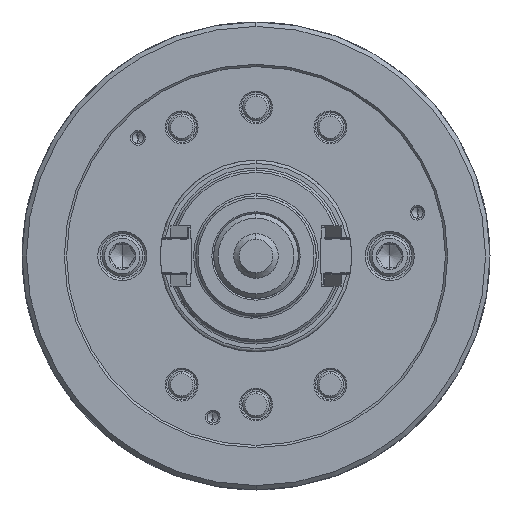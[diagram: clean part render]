
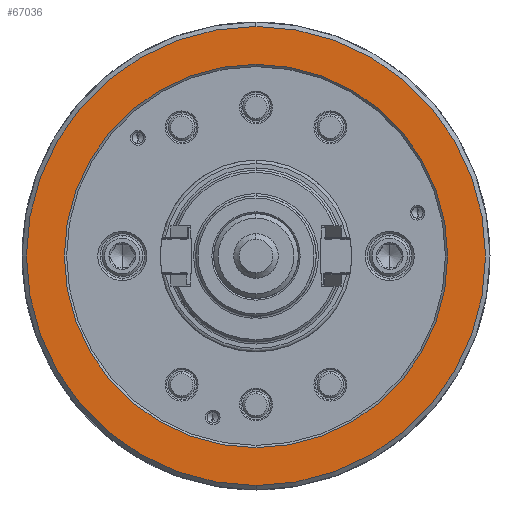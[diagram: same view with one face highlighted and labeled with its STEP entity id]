
A CAD part, left-side view. The second image highlights one B-rep face of the part: STEP entity #67036.
In plain terms, the highlighted planar face has unit normal (-1, 0, 0).
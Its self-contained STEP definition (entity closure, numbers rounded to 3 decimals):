
#3348 = AXIS2_PLACEMENT_3D ( 'NONE', #25095, #76961, #54967 ) ;
#4891 = AXIS2_PLACEMENT_3D ( 'NONE', #70323, #32173, #47319 ) ;
#11047 = EDGE_CURVE ( 'NONE', #90557, #88701, #45200, .T. ) ;
#12721 = CIRCLE ( 'NONE', #4891, 86. ) ;
#14849 = DIRECTION ( 'NONE',  ( 1., 0., 0. ) ) ;
#16155 = CARTESIAN_POINT ( 'NONE',  ( -85., 0., 103. ) ) ;
#19255 = VERTEX_POINT ( 'NONE', #54264 ) ;
#20109 = EDGE_CURVE ( 'NONE', #19255, #76998, #87928, .T. ) ;
#21712 = CARTESIAN_POINT ( 'NONE',  ( -85., 0., 0. ) ) ;
#25095 = CARTESIAN_POINT ( 'NONE',  ( -85., -103., 0. ) ) ;
#25456 = AXIS2_PLACEMENT_3D ( 'NONE', #21712, #14849, #82809 ) ;
#26945 = ORIENTED_EDGE ( 'NONE', *, *, #20109, .F. ) ;
#31220 = ORIENTED_EDGE ( 'NONE', *, *, #73345, .F. ) ;
#31842 = DIRECTION ( 'NONE',  ( 0., 0., -1. ) ) ;
#32173 = DIRECTION ( 'NONE',  ( 1., 0., 0. ) ) ;
#36969 = AXIS2_PLACEMENT_3D ( 'NONE', #47964, #77808, #31842 ) ;
#40106 = EDGE_CURVE ( 'NONE', #88701, #90557, #12721, .T. ) ;
#45200 = CIRCLE ( 'NONE', #57743, 86. ) ;
#47319 = DIRECTION ( 'NONE',  ( 0., 0., -1. ) ) ;
#47964 = CARTESIAN_POINT ( 'NONE',  ( -85., 0., 0. ) ) ;
#48335 = CARTESIAN_POINT ( 'NONE',  ( -85., 0., 86. ) ) ;
#50408 = DIRECTION ( 'NONE',  ( 0., 0., -1. ) ) ;
#54264 = CARTESIAN_POINT ( 'NONE',  ( -85., 0., -103. ) ) ;
#54967 = DIRECTION ( 'NONE',  ( 0., 0., -1. ) ) ;
#57743 = AXIS2_PLACEMENT_3D ( 'NONE', #65093, #58236, #50408 ) ;
#58236 = DIRECTION ( 'NONE',  ( 1., 0., 0. ) ) ;
#61719 = ORIENTED_EDGE ( 'NONE', *, *, #40106, .T. ) ;
#63257 = FACE_OUTER_BOUND ( 'NONE', #63323, .T. ) ;
#63323 = EDGE_LOOP ( 'NONE', ( #26945, #31220 ) ) ;
#65093 = CARTESIAN_POINT ( 'NONE',  ( -85., 0., 0. ) ) ;
#66613 = EDGE_LOOP ( 'NONE', ( #81031, #61719 ) ) ;
#67036 = ADVANCED_FACE ( 'NONE', ( #63257, #78390 ), #93102, .F. ) ;
#70323 = CARTESIAN_POINT ( 'NONE',  ( -85., 0., 0. ) ) ;
#73345 = EDGE_CURVE ( 'NONE', #76998, #19255, #90132, .T. ) ;
#76961 = DIRECTION ( 'NONE',  ( 1., 0., 0. ) ) ;
#76998 = VERTEX_POINT ( 'NONE', #16155 ) ;
#77808 = DIRECTION ( 'NONE',  ( 1., 0., 0. ) ) ;
#78390 = FACE_BOUND ( 'NONE', #66613, .T. ) ;
#81031 = ORIENTED_EDGE ( 'NONE', *, *, #11047, .T. ) ;
#82809 = DIRECTION ( 'NONE',  ( 0., 0., -1. ) ) ;
#82864 = CARTESIAN_POINT ( 'NONE',  ( -85., 0., -86. ) ) ;
#87928 = CIRCLE ( 'NONE', #25456, 103. ) ;
#88701 = VERTEX_POINT ( 'NONE', #82864 ) ;
#90132 = CIRCLE ( 'NONE', #36969, 103. ) ;
#90557 = VERTEX_POINT ( 'NONE', #48335 ) ;
#93102 = PLANE ( 'NONE',  #3348 ) ;
